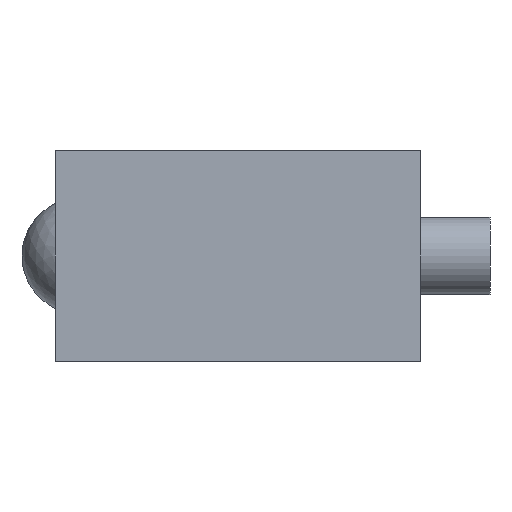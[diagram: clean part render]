
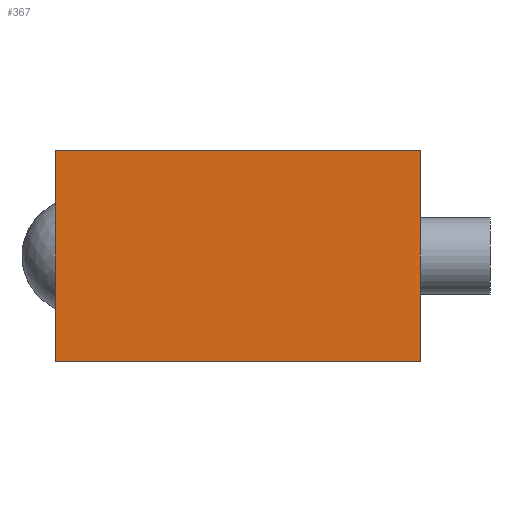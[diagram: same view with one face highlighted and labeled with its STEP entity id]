
A CAD part, left-side view. The second image highlights one B-rep face of the part: STEP entity #367.
In plain terms, the highlighted planar face has unit normal (-1, 0, 0).
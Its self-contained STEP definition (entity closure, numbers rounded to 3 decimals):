
#21=LINE('',#604,#37);
#27=LINE('',#619,#43);
#31=LINE('',#631,#47);
#33=LINE('',#634,#49);
#37=VECTOR('',#510,10.);
#43=VECTOR('',#520,10.);
#47=VECTOR('',#536,10.);
#49=VECTOR('',#540,10.);
#77=PLANE('',#433);
#102=FACE_OUTER_BOUND('',#142,.T.);
#142=EDGE_LOOP('',(#294,#295,#296,#297));
#184=VERTEX_POINT('',#602);
#185=VERTEX_POINT('',#603);
#191=VERTEX_POINT('',#616);
#192=VERTEX_POINT('',#618);
#215=EDGE_CURVE('',#184,#185,#21,.T.);
#222=EDGE_CURVE('',#191,#192,#27,.T.);
#228=EDGE_CURVE('',#192,#184,#31,.T.);
#230=EDGE_CURVE('',#185,#191,#33,.T.);
#294=ORIENTED_EDGE('',*,*,#222,.F.);
#295=ORIENTED_EDGE('',*,*,#230,.F.);
#296=ORIENTED_EDGE('',*,*,#215,.F.);
#297=ORIENTED_EDGE('',*,*,#228,.F.);
#367=ADVANCED_FACE('',(#102),#77,.T.);
#433=AXIS2_PLACEMENT_3D('',#633,#538,#539);
#510=DIRECTION('',(0.,0.,1.));
#520=DIRECTION('',(0.,0.,-1.));
#536=DIRECTION('',(0.,1.,0.));
#538=DIRECTION('center_axis',(-1.,0.,0.));
#539=DIRECTION('ref_axis',(0.,-1.,0.));
#540=DIRECTION('',(0.,-1.,0.));
#602=CARTESIAN_POINT('',(-180.,18.9,-10.9));
#603=CARTESIAN_POINT('',(-180.,18.9,10.9));
#604=CARTESIAN_POINT('',(-180.,18.9,0.));
#616=CARTESIAN_POINT('',(-180.,-18.9,10.9));
#618=CARTESIAN_POINT('',(-180.,-18.9,-10.9));
#619=CARTESIAN_POINT('',(-180.,-18.9,0.));
#631=CARTESIAN_POINT('',(-180.,18.9,-10.9));
#633=CARTESIAN_POINT('Origin',(-180.,18.9,0.));
#634=CARTESIAN_POINT('',(-180.,18.9,10.9));
